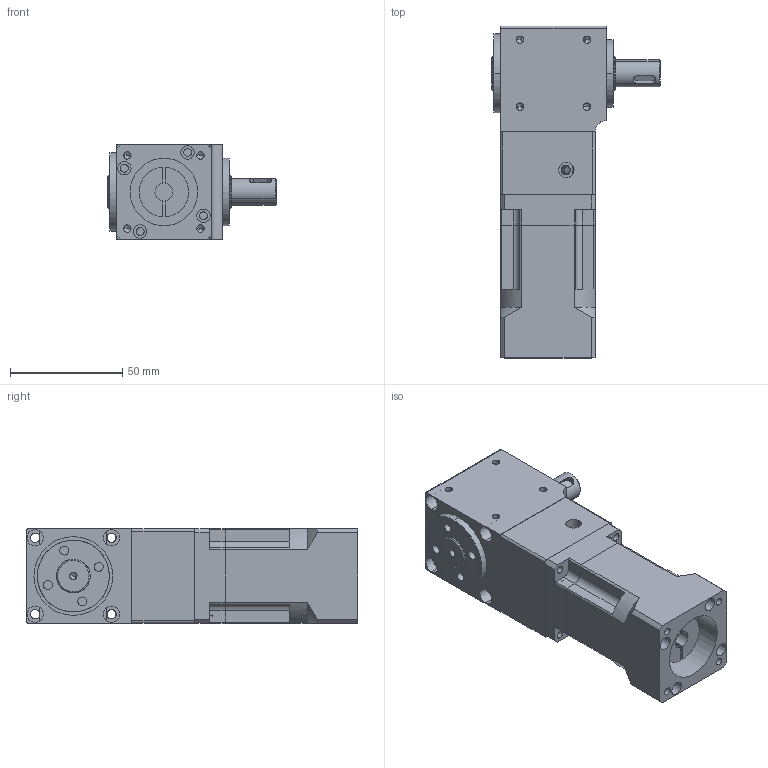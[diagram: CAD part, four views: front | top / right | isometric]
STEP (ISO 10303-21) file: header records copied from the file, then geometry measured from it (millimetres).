
FILE_DESCRIPTION (( 'STEP AP203' ), '1' );
FILE_NAME ('×°ÅäÌå1.STEP', '2022-05-17T11:46:06', ( 'User' ), ( 'China' ), 'SwSTEP 2.0', 'SolidWorks 2015', '' );
FILE_SCHEMA (( 'CONFIG_CONTROL_DESIGN' ));
Length unit declared in the file: millimetre
Products named in the file (13): 標杶ㄗ1ㄘ; deep groove ball bearings gb_Rolling bearings 6001 GB 276-94; deep groove ball bearings gb_Rolling bearings 6002 GB 276-94; deep groove ball bearings gb_Rolling bearings 61902 GB 276-94; 褲极; 綴楊擘ㄗ怢湛100Wㄘ; 怀堤粣ㄗ等粣ㄘ; 42等粣ㄗ怢湛100Wㄘ; 输入轴; KPF42-L2-10粣(8-25-30-1.6-4-4.5-46); 蹟譫; 蚾饜极1; 蹟譫ㄗ2ㄘ
Assembly tree (12 placements, depth 3):
  蚾饜极1
    42等粣ㄗ怢湛100Wㄘ
      褲极
      怀堤粣ㄗ等粣ㄘ
      输入轴
      蹟譫
      蹟譫ㄗ2ㄘ
      標杶ㄗ1ㄘ
      deep groove ball bearings gb_Rolling bearings 6001 GB 276-94
      deep groove ball bearings gb_Rolling bearings 6002 GB 276-94
      deep groove ball bearings gb_Rolling bearings 61902 GB 276-94
      綴楊擘ㄗ怢湛100Wㄘ
    KPF42-L2-10粣(8-25-30-1.6-4-4.5-46)
Bounding box: 75 x 147.5 x 42 mm (x, y, z)
Volume: 209491.3 mm3; surface area: 81052.1 mm2
Topology: 12 solids, 12 shells, 852 faces, 2876 edges, 1884 vertices
Faces by surface type: cylinder 335, torus 177, plane 157, sphere 98, cone 85
Entity records: 35089 total; most frequent: CARTESIAN_POINT 10844, ORIENTED_EDGE 5060, DIRECTION 4684, EDGE_CURVE 2530, AXIS2_PLACEMENT_3D 2048, VERTEX_POINT 1688, CIRCLE 1180, EDGE_LOOP 1014
